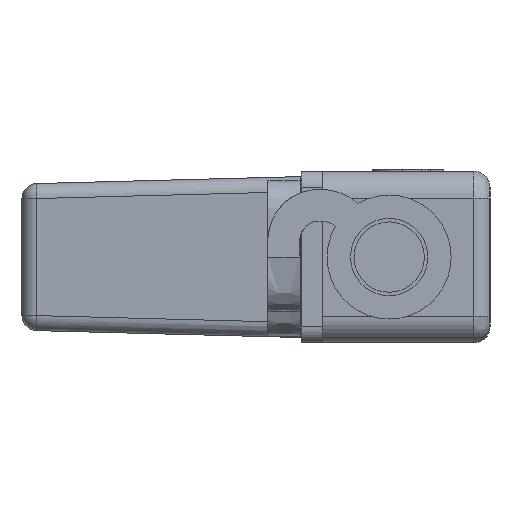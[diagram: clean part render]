
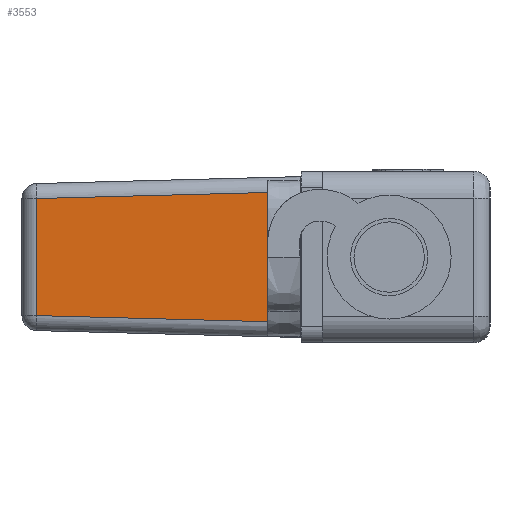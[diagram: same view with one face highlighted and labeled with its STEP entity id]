
A CAD part, left-side view. The second image highlights one B-rep face of the part: STEP entity #3553.
In plain terms, the highlighted planar face has unit normal (-1, 0.026, 0).
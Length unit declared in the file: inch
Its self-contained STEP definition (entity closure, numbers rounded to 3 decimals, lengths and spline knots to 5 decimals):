
#66=PLANE('',#3798);
#262=FACE_OUTER_BOUND('',#473,.T.);
#473=EDGE_LOOP('',(#2496,#2497,#2498,#2499));
#691=LINE('',#5420,#1027);
#694=LINE('',#5435,#1030);
#696=LINE('',#5438,#1032);
#703=LINE('',#5449,#1039);
#1027=VECTOR('',#4025,0.3937);
#1030=VECTOR('',#4042,0.3937);
#1032=VECTOR('',#4046,0.3937);
#1039=VECTOR('',#4061,0.3937);
#1523=VERTEX_POINT('',#5409);
#1526=VERTEX_POINT('',#5416);
#1530=VERTEX_POINT('',#5428);
#1532=VERTEX_POINT('',#5433);
#1893=EDGE_CURVE('',#1523,#1526,#691,.T.);
#1900=EDGE_CURVE('',#1532,#1530,#694,.T.);
#1902=EDGE_CURVE('',#1530,#1523,#696,.T.);
#1909=EDGE_CURVE('',#1532,#1526,#703,.T.);
#2496=ORIENTED_EDGE('',*,*,#1893,.F.);
#2497=ORIENTED_EDGE('',*,*,#1902,.F.);
#2498=ORIENTED_EDGE('',*,*,#1900,.F.);
#2499=ORIENTED_EDGE('',*,*,#1909,.T.);
#3553=ADVANCED_FACE('',(#262),#66,.T.);
#3798=AXIS2_PLACEMENT_3D('',#5448,#4059,#4060);
#4025=DIRECTION('',(-0.026,-0.999,0.026));
#4042=DIRECTION('',(0.026,0.999,0.026));
#4046=DIRECTION('',(0.,0.,1.));
#4059=DIRECTION('center_axis',(-1.,0.026,0.));
#4060=DIRECTION('ref_axis',(0.,0.,1.));
#4061=DIRECTION('',(0.,0.,1.));
#5409=CARTESIAN_POINT('',(-0.93274,2.11283,0.27277));
#5416=CARTESIAN_POINT('',(-0.965,0.881,0.30502));
#5420=CARTESIAN_POINT('',(-0.96439,0.9044,0.30441));
#5428=CARTESIAN_POINT('',(-0.93274,2.11283,-0.27277));
#5433=CARTESIAN_POINT('',(-0.965,0.881,-0.30502));
#5435=CARTESIAN_POINT('',(-0.96479,0.88898,-0.30482));
#5438=CARTESIAN_POINT('',(-0.93274,2.11283,0.1875));
#5448=CARTESIAN_POINT('Origin',(-0.965,0.881,0.375));
#5449=CARTESIAN_POINT('',(-0.965,0.881,-0.375));
